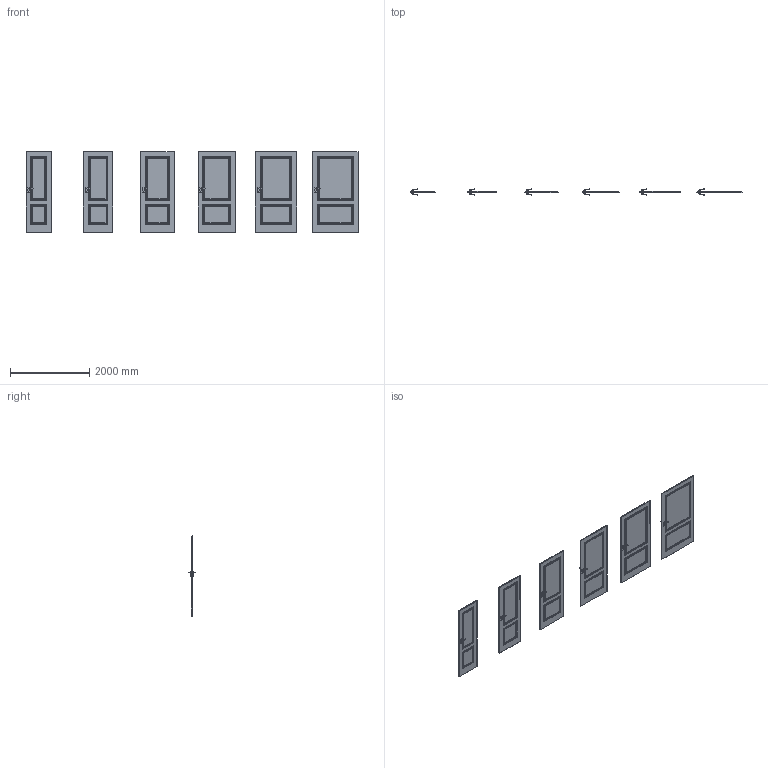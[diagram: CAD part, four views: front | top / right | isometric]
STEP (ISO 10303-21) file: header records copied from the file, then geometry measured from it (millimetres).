
FILE_DESCRIPTION(/* description */ (''),/* implementation_level */ '2;1');
FILE_NAME(/* name */ '049699_A_2-Skrzydło VECTOR V_ polska norma _PN__ przylgowe..stp',/* time_stamp */ '2024-02-14T09:08:27+01:00',/* author */ (''),/* organization */ (''),/* preprocessor_version */ 'ST-DEVELOPER v16',/* originating_system */ 'SIEMENS PLM Software NX 11.0',/* authorisation */ '');
FILE_SCHEMA (('AUTOMOTIVE_DESIGN { 1 0 10303 214 3 1 1 1 }'));
Products named in the file (1): bkni07C850E0u5sk
Bounding box: 8394 x 153.27 x 2030 mm (x, y, z)
Volume: 417467985.2 mm3; surface area: 23535620.4 mm2
Topology: 30 solids, 30 shells, 3960 faces, 8868 edges, 5040 vertices
Faces by surface type: bspline 2112, plane 1416, cylinder 264, sphere 168
Entity records: 111940 total; most frequent: CARTESIAN_POINT 38797, ORIENTED_EDGE 17400, DIRECTION 11606, EDGE_CURVE 8700, LINE 5700, VECTOR 5700, VERTEX_POINT 5040, EDGE_LOOP 4224
